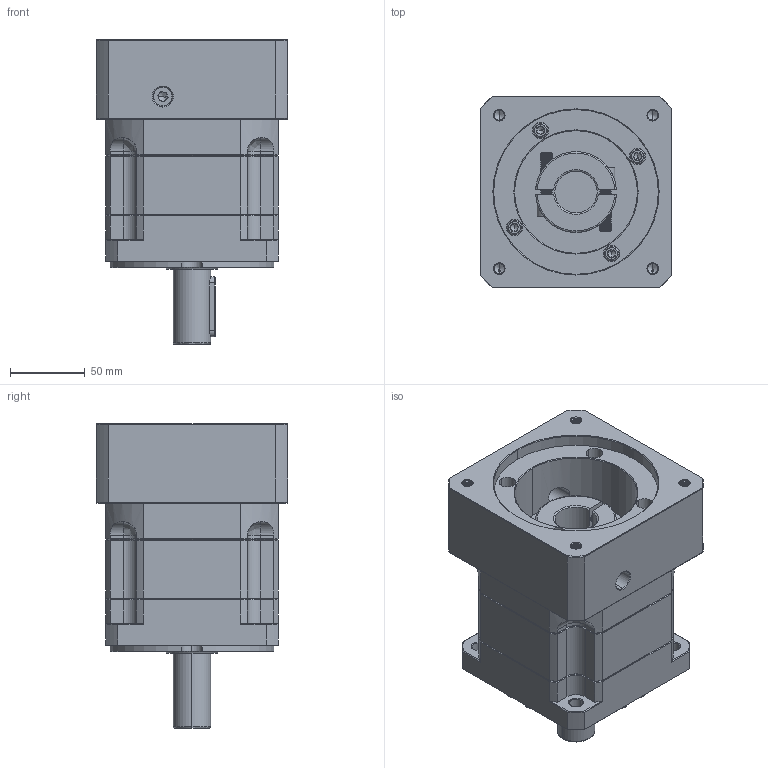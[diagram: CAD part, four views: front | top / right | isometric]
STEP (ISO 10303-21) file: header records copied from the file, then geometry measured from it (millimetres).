
FILE_DESCRIPTION (( 'STEP AP214' ), '1' );
FILE_NAME ('ZB115A-D25-L1-P2-28-110-145-M8.step', '2023-08-26T06:22:34', ( '' ), ( '' ), 'SwSTEP 2.0', 'SolidWorks 2016', '' );
FILE_SCHEMA (( 'AUTOMOTIVE_DESIGN' ));
Length unit declared in the file: millimetre
Products named in the file (1): ZB115A-D25-L1-P2-28-110-145-M8
Bounding box: 128 x 128 x 203.5 mm (x, y, z)
Volume: 1758658.6 mm3; surface area: 183811.2 mm2
Topology: 6 solids, 6 shells, 2390 faces, 6275 edges, 3984 vertices
Faces by surface type: plane 1143, cylinder 439, bspline 423, cone 365, torus 20
Entity records: 128742 total; most frequent: CARTESIAN_POINT 47138, ORIENTED_EDGE 12482, DIRECTION 9875, EDGE_CURVE 6241, LINE 3993, VECTOR 3993, VERTEX_POINT 3984, AXIS2_PLACEMENT_3D 2941
